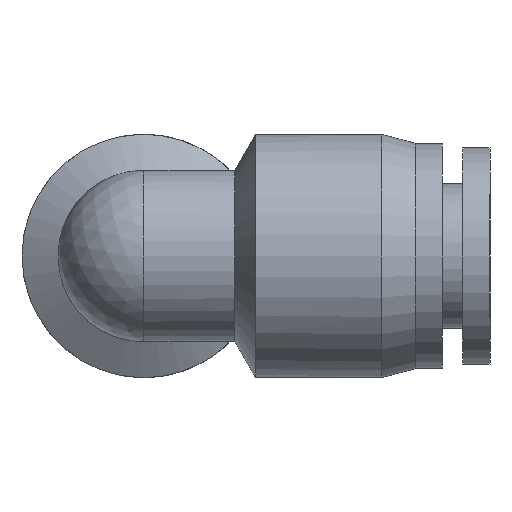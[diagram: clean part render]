
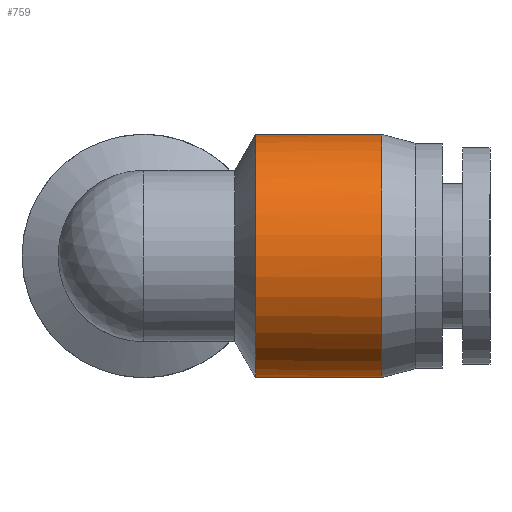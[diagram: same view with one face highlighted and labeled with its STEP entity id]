
A CAD part, left-side view. The second image highlights one B-rep face of the part: STEP entity #759.
In plain terms, the highlighted cylindrical face has radius 6.75 mm (diameter 13.5 mm), a full revolution.
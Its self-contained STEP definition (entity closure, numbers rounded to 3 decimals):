
#487=CARTESIAN_POINT('',(6.676,-6.676,1.0));
#488=VERTEX_POINT('',#487);
#497=CARTESIAN_POINT('',(6.676,-7.467,1.0));
#498=VERTEX_POINT('',#497);
#499=CARTESIAN_POINT('',(6.676,-7.467,1.0));
#500=DIRECTION('',(0.0,1.0,0.0));
#501=VECTOR('',#500,0.791);
#502=LINE('',#499,#501);
#503=EDGE_CURVE('',#498,#488,#502,.T.);
#521=CARTESIAN_POINT('',(6.676,-6.676,-1.0));
#522=VERTEX_POINT('',#521);
#529=CARTESIAN_POINT('',(6.676,-7.467,-1.0));
#530=VERTEX_POINT('',#529);
#537=CARTESIAN_POINT('',(6.676,-6.676,-1.0));
#538=DIRECTION('',(0.0,-1.0,0.0));
#539=VECTOR('',#538,0.791);
#540=LINE('',#537,#539);
#541=EDGE_CURVE('',#522,#530,#540,.T.);
#559=CARTESIAN_POINT('',(0.,-14.142,0.0));
#560=DIRECTION('',(0.707,-0.707,0.0));
#561=DIRECTION('',(0.707,0.707,0.0));
#562=AXIS2_PLACEMENT_3D('',#559,#560,#561);
#563=ELLIPSE('',#562,9.546,6.75);
#564=EDGE_CURVE('',#530,#498,#563,.T.);
#589=CARTESIAN_POINT('',(6.2,-6.2,-2.669));
#590=VERTEX_POINT('',#589);
#591=CARTESIAN_POINT('',(0.0,0.0,0.0));
#592=DIRECTION('',(0.707,0.707,0.0));
#593=DIRECTION('',(0.707,-0.707,0.0));
#594=AXIS2_PLACEMENT_3D('',#591,#592,#593);
#595=ELLIPSE('',#594,9.546,6.75);
#596=EDGE_CURVE('',#522,#590,#595,.T.);
#598=CARTESIAN_POINT('',(6.2,-6.2,2.669));
#599=VERTEX_POINT('',#598);
#607=CARTESIAN_POINT('',(0.0,0.0,0.0));
#608=DIRECTION('',(0.707,0.707,0.0));
#609=DIRECTION('',(0.707,-0.707,0.0));
#610=AXIS2_PLACEMENT_3D('',#607,#608,#609);
#611=ELLIPSE('',#610,9.546,6.75);
#612=EDGE_CURVE('',#599,#488,#611,.T.);
#712=CARTESIAN_POINT('',(0.,-6.2,0.0));
#713=DIRECTION('',(0.0,-1.0,0.0));
#714=DIRECTION('',(1.0,0.0,0.0));
#715=AXIS2_PLACEMENT_3D('',#712,#713,#714);
#716=CIRCLE('',#715,6.75);
#717=EDGE_CURVE('',#599,#590,#716,.T.);
#735=CARTESIAN_POINT('',(0.,-9.7,0.0));
#736=DIRECTION('',(0.,-1.0,0.0));
#737=DIRECTION('',(1.0,0.0,0.0));
#738=AXIS2_PLACEMENT_3D('',#735,#736,#737);
#739=CYLINDRICAL_SURFACE('',#738,6.75);
#740=ORIENTED_EDGE('',*,*,#503,.T.);
#741=ORIENTED_EDGE('',*,*,#612,.F.);
#742=ORIENTED_EDGE('',*,*,#717,.T.);
#743=ORIENTED_EDGE('',*,*,#596,.F.);
#744=ORIENTED_EDGE('',*,*,#541,.T.);
#745=ORIENTED_EDGE('',*,*,#564,.T.);
#746=EDGE_LOOP('',(#740,#741,#742,#743,#744,#745));
#747=FACE_OUTER_BOUND('',#746,.T.);
#748=CARTESIAN_POINT('',(6.75,-13.2,0.0));
#749=VERTEX_POINT('',#748);
#750=CARTESIAN_POINT('',(0.,-13.2,0.0));
#751=DIRECTION('',(0.0,-1.0,0.0));
#752=DIRECTION('',(1.0,0.0,0.0));
#753=AXIS2_PLACEMENT_3D('',#750,#751,#752);
#754=CIRCLE('',#753,6.75);
#755=EDGE_CURVE('',#749,#749,#754,.T.);
#756=ORIENTED_EDGE('',*,*,#755,.F.);
#757=EDGE_LOOP('',(#756));
#758=FACE_BOUND('',#757,.T.);
#759=ADVANCED_FACE('',(#747,#758),#739,.T.);
